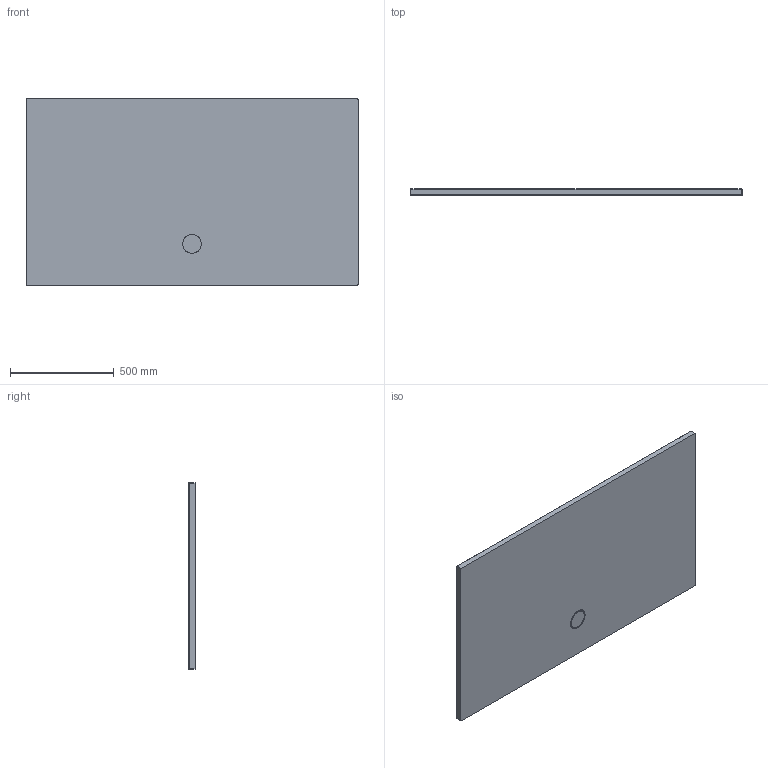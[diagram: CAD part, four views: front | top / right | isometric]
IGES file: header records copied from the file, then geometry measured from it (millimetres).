
Start section: SolidWorks IGES file using analytic representation for surfaces
Global section: file name: Y:\TKT\_PLIKI DLA ARCHITEKTÓW\02_AKRYL\BRODZIKI\seria SPACE MINERAL\IGS\B_M_90x160x1,5.IGS; native system: SolidWorks 2011; preprocessor: SolidWorks 2011; author: M.Szymanski; date: 180215.160426; units: millimetre
Bounding box: 1600 x 30 x 900 mm (x, y, z)
Surface area: 3042514.8 mm2 (no closed solid volume)
Topology: 0 solids, 0 shells, 61 faces, 727 edges, 724 vertices
Faces by surface type: bspline 39, revolution 22
